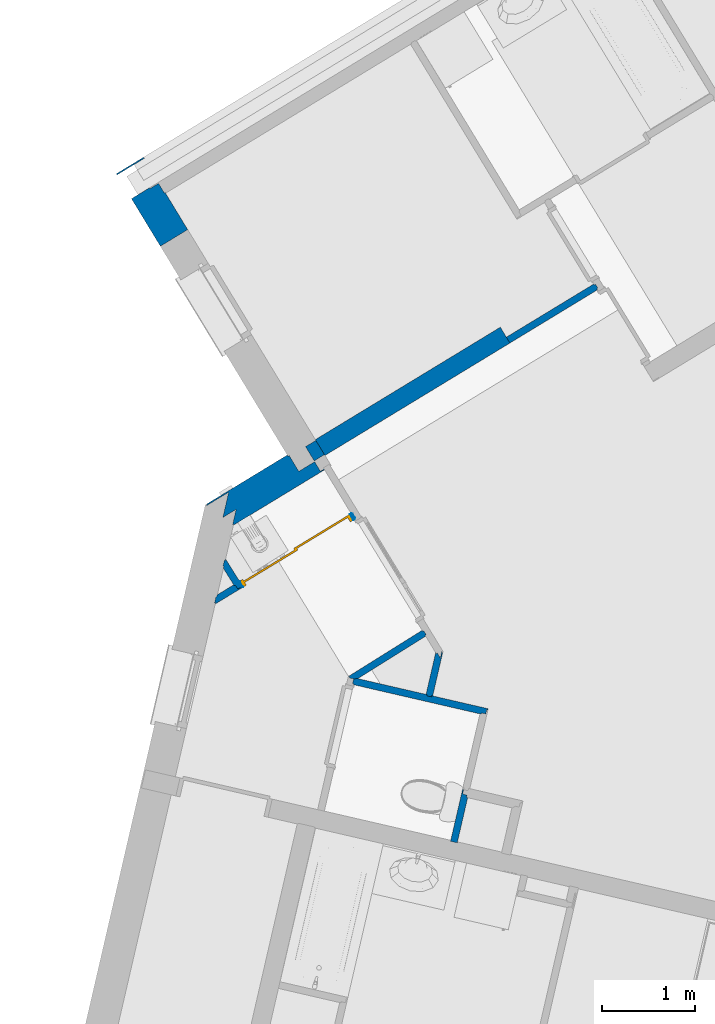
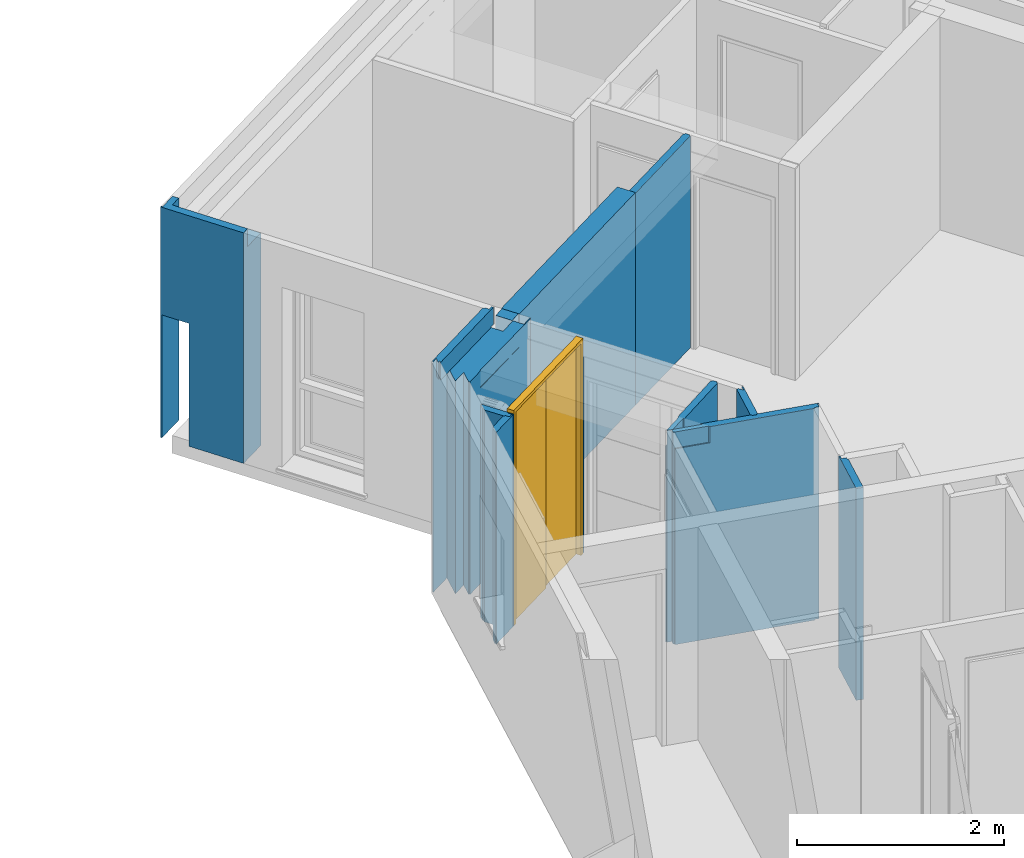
# One storey, part 54 of 90: 12 walls, 1 door, 1 opening.
"""IFC2X3 building model written with IfcOpenShell, lengths in metres."""

from ifc_helpers import new_model, entity, si_unit, converted_unit, derived_unit, money_unit, direction, frame, origin_with_axes, place, context, subcontext, project, spatial, faceted_brep, material, material_list, type_object, element, fill, save


model = new_model("IFC2X3")

# Units and contexts
model_context = context("Model", 3, precision=1e-05, world=origin_with_axes(), true_north=direction((0.0, 1.0)))
body_context = subcontext(model_context, "Body", "Model", "MODEL_VIEW")
ifc_project = project(units=[si_unit("LENGTHUNIT", "METRE"), si_unit("AREAUNIT", "SQUARE_METRE"), si_unit("VOLUMEUNIT", "CUBIC_METRE"), converted_unit("PLANEANGLEUNIT", "DEGREE", entity("IfcPlaneAngleMeasure", 0.0174532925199), si_unit("PLANEANGLEUNIT", "RADIAN"), dimensions=[0, 0, 0, 0, 0, 0, 0]), si_unit("SOLIDANGLEUNIT", "STERADIAN"), money_unit("EUR"), converted_unit("TIMEUNIT", "Year", entity("IfcTimeMeasure", 31556926.0), si_unit("TIMEUNIT", "SECOND"), dimensions=[0, 0, 1, 0, 0, 0, 0]), si_unit("MASSUNIT", "GRAM", prefix="KILO"), si_unit("THERMODYNAMICTEMPERATUREUNIT", "DEGREE_CELSIUS"), si_unit("LUMINOUSINTENSITYUNIT", "LUMEN"), si_unit("ENERGYUNIT", "JOULE", prefix="MEGA"), derived_unit("THERMALCONDUCTANCEUNIT", [(si_unit("POWERUNIT", "WATT"), 1), (si_unit("LENGTHUNIT", "METRE"), -1), (si_unit("THERMODYNAMICTEMPERATUREUNIT", "KELVIN"), -1)]), derived_unit("SPECIFICHEATCAPACITYUNIT", [(si_unit("ENERGYUNIT", "JOULE"), 1), (si_unit("MASSUNIT", "GRAM", prefix="KILO"), -1), (si_unit("THERMODYNAMICTEMPERATUREUNIT", "KELVIN"), -1)]), derived_unit("MASSDENSITYUNIT", [(si_unit("MASSUNIT", "GRAM", prefix="KILO"), 1), (si_unit("VOLUMEUNIT", "CUBIC_METRE"), -1)])], contexts=[model_context])

# Site, building, storey
site_placement = place(None, origin_with_axes())
site = spatial("IfcSite", under=ifc_project, at=site_placement, Name="Site", CompositionType="ELEMENT")
building_placement = place(site_placement, origin_with_axes())
building = spatial("IfcBuilding", under=site, at=building_placement, Name="Bâtiment", CompositionType="ELEMENT")
storey_placement = place(building_placement, frame((0.0, 0.0, 2.72), z_axis=(0.0, 0.0, 1.0), x_axis=(1.0, 0.0, 0.0)))
storey = spatial("IfcBuildingStorey", under=building, at=storey_placement, Name="R+1", CompositionType="ELEMENT", Elevation=2.72)

# Wall
ifc_material_1 = material(Name="Finition int - Plaque de plâtre")
ifc_material_2 = material(Name="Isolation - Polystyrène extrudé")
ifc_material_3 = material(Name="Bloc ELITHERM")
ifc_material_4 = material(Name="Isolation - Polystyrène expansé")
ifc_material_5 = material(Name="Mortier")
ifc_material_6 = material(Name="Béton cellulaire")
ifc_material_7 = material(Name="Finition ext - Crépis")
ifc_material_list_1 = material_list([ifc_material_1, ifc_material_2, ifc_material_3, ifc_material_4, ifc_material_5, ifc_material_6, ifc_material_7])
wall_type_1 = type_object("IfcWallType", Name="Mur ALKERN + planelle 21 345 x 2720", PredefinedType="USERDEFINED")
wall_1_placement = place(storey_placement, frame((-5.96607923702, 18.1788685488, 0.0), z_axis=(0.0, 0.0, 1.0), x_axis=(-0.854539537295, -0.519386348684, 0.0)))
element("IfcWall", 1, at=wall_1_placement, inside=storey, type_object=wall_type_1, material=ifc_material_list_1, Name="Mue bloc ALKERN isolé", ObjectType="SOLIDWALL", context=body_context, shape_type="Brep", body=[
    faceted_brep([(-0.335000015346, 0.344930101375, 2.51), (-0.335000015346, 0.344930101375, 2.31), (-0.335000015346, 0.34499998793, 2.31), (-0.335000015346, 0.34499998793, 0.0), (-0.33500001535, 0.335000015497, 0.0), (-0.33500001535, 0.335000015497, 2.51), (0.677432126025, 0.337858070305, 2.51), (0.677432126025, 0.337858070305, 2.31), (0.677427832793, 0.34499998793, 2.31), (0.677427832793, 0.34499998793, 2.51), (0.889585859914, 0.34499998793, 2.51), (0.889585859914, 0.34499998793, 0.0), (0.879831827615, 0.335000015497, 0.0), (0.879831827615, 0.335000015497, 2.51)], [[[0, 1, 2, 3, 4, 5]], [[1, 0, 6, 7]], [[8, 2, 1, 7]], [[8, 9, 10, 11, 3, 2]], [[3, 11, 12, 4]], [[4, 12, 13, 5]], [[6, 0, 5, 13, 10, 9]], [[6, 9, 8, 7]], [[11, 10, 13, 12]]]),
    faceted_brep([(-0.215000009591, 0.215000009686, 0.0), (0.776752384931, 0.215000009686, 0.0), (0.776752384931, 0.215000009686, 2.51), (-0.215000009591, 0.215000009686, 2.51), (-0.215000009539, 0.335000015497, 0.0), (0.893801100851, 0.335000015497, 0.0), (0.893801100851, 0.335000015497, 2.51), (-0.215000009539, 0.335000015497, 2.51)], [[[0, 1, 2, 3]], [[4, 5, 1, 0]], [[5, 6, 2, 1]], [[3, 2, 6, 7]], [[0, 3, 7, 4]], [[7, 6, 5, 4]]]),
    faceted_brep([(0.749302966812, 0.015, 0.0), (0.749302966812, 0.015, 2.50999999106), (-0.0149999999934, 0.015, 2.50999999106), (-0.0149999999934, 0.015, 0.0), (0.815630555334, 0.0829999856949, 2.50999999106), (0.944384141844, 0.214999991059, 0.0), (0.944384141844, 0.214999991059, 2.50999999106), (-0.0149999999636, 0.0829999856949, 2.50999999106), (-0.0149999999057, 0.214999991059, 2.50999999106), (-0.0149999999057, 0.214999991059, 0.0)], [[[0, 1, 2, 3]], [[4, 1, 0, 5, 6]], [[1, 4, 7, 2]], [[7, 8, 9, 3, 2]], [[5, 0, 3, 9]], [[6, 5, 9, 8]], [[4, 6, 8, 7]]]),
    faceted_brep([(-0.0630000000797, 0.0630000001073, 2.51999999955), (0.980517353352, 0.0630000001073, 2.51999999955), (0.980517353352, 0.0630000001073, 2.72), (-0.0630000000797, 0.0630000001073, 2.72), (-0.0630000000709, 0.083000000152, 2.51999999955), (1.00002547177, 0.083000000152, 2.51999999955), (1.00002547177, 0.083000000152, 2.72), (-0.0630000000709, 0.083000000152, 2.72)], [[[0, 1, 2, 3]], [[4, 5, 1, 0]], [[5, 6, 2, 1]], [[3, 2, 6, 7]], [[0, 3, 7, 4]], [[7, 6, 5, 4]]]),
    faceted_brep([(0.933697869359, 0.015, 2.51), (0.933697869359, 0.015, 2.52), (-0.0149999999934, 0.015, 2.52), (-0.0149999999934, 0.015, 2.51), (1.00002547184, 0.083, 2.52), (1.00002547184, 0.083, 2.51), (-0.0149999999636, 0.083, 2.52), (-0.0149999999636, 0.083, 2.51)], [[[0, 1, 2, 3]], [[4, 1, 0, 5]], [[1, 4, 6, 2]], [[2, 6, 7, 3]], [[5, 0, 3, 7]], [[4, 5, 7, 6]]]),
    faceted_brep([(0.961636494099, 0.015, 2.51999999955), (0.961636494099, 0.015, 2.72), (-0.0149999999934, 0.015, 2.72), (-0.0149999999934, 0.015, 2.51999999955), (1.00845597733, 0.0629999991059, 2.72), (1.00845597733, 0.0629999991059, 2.51999999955), (-0.0149999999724, 0.0629999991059, 2.72), (-0.0149999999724, 0.0629999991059, 2.51999999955)], [[[0, 1, 2, 3]], [[4, 1, 0, 5]], [[1, 4, 6, 2]], [[2, 6, 7, 3]], [[5, 0, 3, 7]], [[4, 5, 7, 6]]]),
    faceted_brep([(1.0140581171, 0.0, 2.72), (0.0, 0.0, 2.72), (0.0, 0.0, 0.0), (1.0140581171, 0.0, 0.0), (1.02868919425, 0.0149999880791, 2.72), (0.0, 0.0149999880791, 2.72), (0.0, 0.0149999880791, 0.0), (1.02868919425, 0.0149999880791, 0.0)], [[[0, 1, 2, 3]], [[1, 0, 4, 5]], [[2, 1, 5, 6]], [[6, 7, 3, 2]], [[7, 4, 0, 3]], [[5, 4, 7, 6]]]),
])

# Wall, opening, door
ifc_material_8 = material(Name="Isolation - Laine de roche")
ifc_material_list_2 = material_list([ifc_material_1, ifc_material_8, ifc_material_1])
wall_type_2 = type_object("IfcWallType", Name="3 - Cloison 72mm Placostil 74", PredefinedType="USERDEFINED")
wall_2_placement = place(storey_placement, frame((-5.17602989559, 17.5240026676, 0.0), z_axis=(0.0, 0.0, 1.0), x_axis=(-0.854539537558, -0.519386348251, 0.0)))
wall_2 = element("IfcWall", 2, at=wall_2_placement, inside=storey, type_object=wall_type_2, material=ifc_material_list_2, Name="Cloison Placostil 72/48", ObjectType="PARTITIONING", context=body_context, shape_type="Brep", body=[
    faceted_brep([(1.48086451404, 0.0, 0.0), (1.48086451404, 0.0, 2.5), (1.48102636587, -0.013, 2.5), (1.48102636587, -0.013, 0.0), (1.48086451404, -0.013, 2.5), (1.48086451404, -0.013, 0.0)], [[[0, 1, 2, 3]], [[4, 1, 0, 5]], [[1, 4, 2]], [[4, 5, 3, 2]], [[5, 0, 3]]]),
    faceted_brep([(0.0890000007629, -0.013, 2.31), (0.0890000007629, 0.0, 2.31), (0.074, 0.0, 2.31), (0.0740000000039, -0.013, 2.31), (0.0890000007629, 0.0, 0.0), (0.0890000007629, -0.013, 0.0), (0.074, 0.0, 0.0), (0.0740000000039, -0.013, 0.0)], [[[0, 1, 2, 3]], [[4, 1, 0, 5]], [[1, 4, 6, 2]], [[2, 6, 7, 3]], [[5, 0, 3, 7]], [[4, 5, 7, 6]]]),
    faceted_brep([(1.48086451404, -0.013, 0.0), (1.48086451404, -0.013, 2.5), (1.49402737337, -0.013, 2.5), (1.49402737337, -0.013, 0.0), (1.48086451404, -0.061, 2.5), (1.48086451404, -0.061, 0.0), (1.49462498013, -0.061, 2.5), (1.49462498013, -0.061, 0.0)], [[[0, 1, 2, 3]], [[4, 1, 0, 5]], [[1, 4, 6, 2]], [[3, 2, 6, 7]], [[5, 0, 3, 7]], [[4, 5, 7, 6]]]),
    faceted_brep([(0.0890000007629, -0.061, 2.5), (0.0890000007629, -0.013, 2.5), (0.0610000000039, -0.013, 2.5), (0.0610000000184, -0.061, 2.5), (0.0890000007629, -0.013, 0.0), (0.0890000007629, -0.061, 0.0), (0.0610000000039, -0.013, 0.0), (0.0610000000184, -0.061, 0.0)], [[[0, 1, 2, 3]], [[4, 1, 0, 5]], [[1, 4, 6, 2]], [[3, 2, 6, 7]], [[5, 0, 3, 7]], [[4, 5, 7, 6]]]),
    faceted_brep([(1.48086451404, -0.061, 0.0), (1.48086451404, -0.061, 2.5), (1.48162397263, -0.061, 2.5), (1.48162397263, -0.061, 0.0), (1.48086451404, -0.074, 2.5), (1.48086451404, -0.074, 0.0), (1.48178582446, -0.074, 2.5), (1.48178582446, -0.074, 0.0)], [[[0, 1, 2, 3]], [[4, 1, 0, 5]], [[1, 4, 6, 2]], [[3, 2, 6, 7]], [[5, 0, 3, 7]], [[4, 5, 7, 6]]]),
    faceted_brep([(0.0890000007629, -0.074, 2.31), (0.0890000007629, -0.061, 2.31), (0.0740000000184, -0.061, 2.31), (0.0740000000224, -0.074, 2.31), (0.0890000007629, -0.061, 0.0), (0.0890000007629, -0.074, 0.0), (0.0740000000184, -0.061, 0.0), (0.0740000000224, -0.074, 0.0)], [[[0, 1, 2, 3]], [[4, 1, 0, 5]], [[1, 4, 6, 2]], [[2, 6, 7, 3]], [[5, 0, 3, 7]], [[4, 5, 7, 6]]]),
])
opening_placement = place(wall_2_placement, frame((0.7849322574, 0.0, 0.0), z_axis=(0.0, 0.0, 1.0), x_axis=(1.0, 0.0, 0.0)))
opening = element("IfcOpeningElement", 3, at=opening_placement, cuts=wall_2, Name="Por-002", context=body_context, shape_type="Brep", body=[
    faceted_brep([(-0.695932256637, 0.074, 0.0), (0.695932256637, 0.074, 0.0), (0.695932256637, -0.074, 0.0), (-0.695932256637, -0.074, 0.0), (-0.695932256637, 0.074, 2.54), (0.695932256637, 0.074, 2.54), (0.695932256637, -0.074, 2.54), (-0.695932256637, -0.074, 2.54)], [[[0, 1, 2, 3]], [[0, 4, 5, 1]], [[1, 5, 6, 2]], [[3, 2, 6, 7]], [[4, 0, 3, 7]], [[5, 4, 7, 6]]]),
])
door_style = type_object("IfcDoorStyle", Name="Porte int générique 2019", ConstructionType="NOTDEFINED", OperationType="USERDEFINED", ParameterTakesPrecedence=False, Sizeable=False)
door_placement = place(opening_placement, frame((0.655932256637, 0.0, 0.0), z_axis=(0.0, 0.0, 1.0), x_axis=(-1.0, 0.0, 0.0)))
door = element("IfcDoor", 4, at=door_placement, inside=storey, type_object=door_style, Name="Por-002", ObjectType="DOOR", OverallHeight=2.5, OverallWidth=1.31186, context=body_context, shape_type="Brep", body=[
    faceted_brep([(1.35186451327, 0.074, 0.0), (1.31186451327, 0.074, 0.0), (1.31186451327, 0.074, 2.5), (0.0, 0.074, 2.5), (0.0, 0.074, 0.0), (-0.04, 0.074, 0.0), (-0.04, 0.074, 2.54), (1.35186451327, 0.074, 2.54), (1.35186451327, 0.0, 0.0), (1.31186451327, 0.0, 0.0), (1.31186451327, 0.0, 2.5), (0.0, 0.0, 2.5), (0.0, 0.0, 0.0), (-0.04, 0.0, 0.0), (-0.04, 0.0, 2.54), (1.35186451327, 0.0, 2.54)], [[[0, 1, 2, 3, 4, 5, 6, 7]], [[0, 8, 9, 1]], [[1, 9, 10, 2]], [[2, 10, 11, 3]], [[3, 11, 12, 4]], [[5, 4, 12, 13]], [[14, 6, 5, 13]], [[15, 7, 6, 14]], [[8, 0, 7, 15]], [[9, 8, 15, 14, 13, 12, 11, 10]]]),
    faceted_brep([(1.31186451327, 0.074, 0.0), (1.31186451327, 0.054, 0.0), (0.640932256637, 0.054, 0.0), (0.640932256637, 0.074, 0.0), (1.31186451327, 0.074, 2.5), (1.31186451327, 0.054, 2.5), (0.640932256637, 0.054, 2.5), (0.640932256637, 0.074, 2.5)], [[[0, 1, 2, 3]], [[4, 5, 1, 0]], [[1, 5, 6, 2]], [[3, 2, 6, 7]], [[0, 3, 7, 4]], [[7, 6, 5, 4]]]),
    faceted_brep([(0.670932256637, 0.054, 0.0), (0.670932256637, 0.034, 0.0), (0.0, 0.034, 0.0), (0.0, 0.054, 0.0), (0.670932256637, 0.054, 2.5), (0.670932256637, 0.034, 2.5), (0.0, 0.034, 2.5), (0.0, 0.054, 2.5)], [[[0, 1, 2, 3]], [[4, 5, 1, 0]], [[1, 5, 6, 2]], [[3, 2, 6, 7]], [[0, 3, 7, 4]], [[7, 6, 5, 4]]]),
])
fill(opening, door)

# Walls
wall_3_placement = place(storey_placement, frame((-5.30738546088, 15.7908144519, 0.0), z_axis=(0.0, 0.0, 1.0), x_axis=(0.974387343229, -0.224876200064, 0.0)))
element("IfcWall", 5, at=wall_3_placement, inside=storey, type_object=wall_type_2, material=ifc_material_list_2, Name="Cloison Placostil 72/48", ObjectType="PARTITIONING", context=body_context, shape_type="Brep", body=[
    faceted_brep([(0.012999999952, 0.0, 2.31), (0.0183847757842, 0.0, 2.31), (0.0183847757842, 0.0, 0.0), (0.012999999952, 0.0, 0.0), (0.0129999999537, -0.00538477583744, 2.31), (0.0129999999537, -0.00538477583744, 0.0)], [[[0, 1, 2, 3]], [[4, 1, 0]], [[1, 4, 5, 2]], [[3, 2, 5]], [[4, 0, 3, 5]]]),
    faceted_brep([(0.354379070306, 0.0, 2.5), (0.367455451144, -0.013, 2.5), (0.872738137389, -0.013, 2.5), (0.872738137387, 0.0, 2.5), (0.367455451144, -0.013, 2.31), (0.354379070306, 0.0, 2.31), (0.0732670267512, -0.013, 2.31), (0.0732670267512, -0.013, 0.0), (0.872738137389, -0.013, 0.0), (0.872738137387, 0.0, 0.0), (0.0862670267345, 0.0, 0.0), (0.0862670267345, 0.0, 2.31)], [[[0, 1, 2, 3]], [[4, 1, 0, 5]], [[4, 6, 7, 8, 2, 1]], [[9, 3, 2, 8]], [[5, 0, 3, 9, 10, 11]], [[6, 4, 5, 11]], [[6, 11, 10, 7]], [[8, 7, 10, 9]]]),
    faceted_brep([(1.54800000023, -0.013, 2.5), (1.54800000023, 0.0, 2.5), (0.920738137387, 0.0, 2.5), (0.920738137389, -0.013, 2.5), (1.54800000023, -0.013, 0.0), (1.54800000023, 0.0, 0.0), (0.920738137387, 0.0, 0.0), (0.920738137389, -0.013, 0.0)], [[[0, 1, 2, 3]], [[1, 0, 4, 5]], [[1, 5, 6, 2]], [[7, 3, 2, 6]], [[4, 0, 3, 7]], [[5, 4, 7, 6]]]),
    faceted_brep([(0.0609999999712, -0.061, 2.5), (1.53500000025, -0.061, 2.5), (1.53500000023, -0.013, 2.5), (0.0609999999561, -0.013, 2.5), (0.0609999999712, -0.061, 0.0), (1.53500000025, -0.061, 0.0), (1.53500000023, -0.013, 0.0), (0.0609999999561, -0.013, 0.0)], [[[0, 1, 2, 3]], [[4, 5, 1, 0]], [[6, 2, 1, 5]], [[3, 2, 6, 7]], [[7, 4, 0, 3]], [[7, 6, 5, 4]]]),
    faceted_brep([(0.415737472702, -0.061, 2.5), (0.428813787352, -0.0739999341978, 2.5), (1.48700000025, -0.074, 2.5), (1.48700000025, -0.061, 2.5), (0.428813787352, -0.0739999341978, 2.31), (0.415737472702, -0.061, 2.31), (0.0740000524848, -0.0739999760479, 2.31), (0.0739999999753, -0.074, 0.0), (1.48700000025, -0.074, 0.0), (1.48700000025, -0.061, 0.0), (0.0739999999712, -0.061, 0.0), (0.0739999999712, -0.061, 2.31)], [[[0, 1, 2, 3]], [[4, 1, 0, 5]], [[4, 6, 7, 8, 2, 1]], [[3, 2, 8, 9]], [[5, 0, 3, 9, 10, 11]], [[6, 4, 5, 11]], [[6, 11, 10, 7]], [[9, 8, 7, 10]]]),
])
wall_4_placement = place(storey_placement, frame((-4.44875993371, 16.3274349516, 0.0), z_axis=(0.0, 0.0, 1.0), x_axis=(-0.848007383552, -0.529984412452, 0.0)))
element("IfcWall", 6, at=wall_4_placement, inside=storey, type_object=wall_type_2, material=ifc_material_list_2, Name="Cloison Placostil 72/48", ObjectType="PARTITIONING", context=body_context, shape_type="Brep", body=[
    faceted_brep([(0.762492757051, 0.061, 2.5), (0.762454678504, 0.074, 2.5), (0.0749270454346, 0.074, 2.5), (0.0747651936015, 0.061, 2.5), (0.762454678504, 0.074, 2.31), (0.762492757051, 0.061, 2.31), (0.938521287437, 0.074, 2.31), (0.938521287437, 0.074, 0.0), (0.0749270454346, 0.074, 0.0), (0.0747651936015, 0.061, 0.0), (0.95152128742, 0.061, 0.0), (0.95152128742, 0.061, 2.31)], [[[0, 1, 2, 3]], [[4, 1, 0, 5]], [[4, 6, 7, 8, 2, 1]], [[8, 9, 3, 2]], [[5, 0, 3, 9, 10, 11]], [[6, 4, 5, 11]], [[6, 11, 10, 7]], [[8, 7, 10, 9]]]),
    faceted_brep([(1.00713651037, 0.013, 2.5), (1.01252128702, 0.0183847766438, 2.5), (0.978580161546, 0.0523259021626, 2.5), (0.96990606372, 0.061, 2.5), (0.0617641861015, 0.061, 2.5), (0.0611665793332, 0.013, 2.5), (1.01252128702, 0.0183847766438, 0.0), (1.00713651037, 0.013, 0.0), (0.978580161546, 0.0523259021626, 0.0), (0.96990606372, 0.061, 0.0), (0.0617641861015, 0.061, 0.0), (0.0611665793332, 0.013, 0.0)], [[[0, 1, 2, 3, 4, 5]], [[6, 1, 0, 7]], [[8, 2, 1, 6]], [[8, 9, 3, 2]], [[4, 3, 9, 10]], [[10, 11, 5, 4]], [[11, 7, 0, 5]], [[8, 6, 7, 11, 10, 9]]]),
    faceted_brep([(0.0740057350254, 2.02924610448e-09, 2.31), (0.0740101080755, 0.000351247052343, 2.31), (0.0740101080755, 0.00035124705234, 2.5), (0.0741675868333, 0.013, 2.5), (0.0741675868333, 0.013, 0.0), (0.0740057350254, 2.02924610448e-09, 0.0), (1.01128122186, 3.30096838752e-10, 2.31), (1.01129574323, 0.00122554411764, 2.31), (1.00332889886, 0.00919238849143, 2.31), (0.999521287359, 0.013, 2.31), (0.762633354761, 0.013, 2.31), (0.762662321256, 0.00311085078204, 2.31), (0.762662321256, 0.00311085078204, 2.5), (0.762633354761, 0.013, 2.5), (0.999521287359, 0.013, 0.0), (1.00332889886, 0.00919238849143, 0.0), (1.01252128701, 3.30096838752e-10, 0.0), (1.01252128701, 3.30096838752e-10, 2.5), (1.01128122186, 3.32342153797e-10, 2.5), (1.01129574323, 0.00122554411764, 2.5)], [[[0, 1, 2, 3, 4, 5]], [[1, 0, 6, 7, 8, 9, 10, 11]], [[12, 2, 1, 11]], [[12, 13, 3, 2]], [[10, 9, 14, 4, 3, 13]], [[14, 15, 16, 5, 4]], [[6, 0, 5, 16, 17, 18]], [[18, 19, 7, 6]], [[7, 19, 17, 16, 15, 8]], [[9, 8, 15, 14]], [[10, 13, 12, 11]], [[19, 18, 17]]]),
])
wall_5_placement = place(storey_placement, frame((-4.28676810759, 16.0609119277, 0.0), z_axis=(0.0, 0.0, 1.0), x_axis=(-0.224876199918, -0.974387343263, 0.0)))
element("IfcWall", 7, at=wall_5_placement, inside=storey, type_object=wall_type_2, material=ifc_material_list_2, Name="Cloison Placostil 72/48", ObjectType="PARTITIONING", context=body_context, shape_type="Brep", body=[
    faceted_brep([(0.492692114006, -0.013, 2.5), (0.492692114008, 0.0, 2.5), (0.0186179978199, 0.0, 2.5), (0.00529021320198, -0.013, 2.5), (0.492692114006, -0.013, 0.0), (0.492692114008, 0.0, 0.0), (0.0186179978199, 0.0, 0.0), (0.00529021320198, -0.013, 0.0)], [[[0, 1, 2, 3]], [[1, 0, 4, 5]], [[1, 5, 6, 2]], [[7, 3, 2, 6]], [[4, 0, 3, 7]], [[5, 4, 7, 6]]]),
    faceted_brep([(0.505692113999, -0.061, 2.5), (0.505692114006, -0.013, 2.5), (0.0740335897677, -0.013, 2.5), (0.0248233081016, -0.061, 2.5), (0.505692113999, -0.061, 0.0), (0.505692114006, -0.013, 0.0), (0.0740335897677, -0.013, 0.0), (0.0248233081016, -0.061, 0.0)], [[[0, 1, 2, 3]], [[1, 0, 4, 5]], [[1, 5, 6, 2]], [[7, 3, 2, 6]], [[4, 0, 3, 7]], [[5, 4, 7, 6]]]),
    faceted_brep([(0.492692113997, -0.074, 2.5), (0.492692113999, -0.061, 2.5), (0.0434413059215, -0.061, 2.5), (0.0301135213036, -0.074, 2.5), (0.492692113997, -0.074, 0.0), (0.492692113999, -0.061, 0.0), (0.0434413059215, -0.061, 0.0), (0.0301135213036, -0.074, 0.0)], [[[0, 1, 2, 3]], [[1, 0, 4, 5]], [[1, 5, 6, 2]], [[7, 3, 2, 6]], [[4, 0, 3, 7]], [[5, 4, 7, 6]]]),
])
wall_6_placement = place(storey_placement, frame((-3.56494758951, 19.3871585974, 0.0), z_axis=(0.0, 0.0, 1.0), x_axis=(0.854539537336, 0.519386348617, 0.0)))
element("IfcWall", 8, at=wall_6_placement, inside=storey, type_object=wall_type_2, material=ifc_material_list_2, Name="Cloison Placostil 72/48", ObjectType="PARTITIONING", context=body_context, shape_type="Brep", body=[
    faceted_brep([(1.1053873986, 0.074, 0.0), (1.1053873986, 0.061, 0.0), (0.0, 0.061, 0.0), (0.0, 0.074, 0.0), (1.1053873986, 0.074, 2.5), (1.1053873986, 0.061, 2.5), (0.0, 0.061, 2.5), (0.0, 0.074, 2.5)], [[[0, 1, 2, 3]], [[1, 0, 4, 5]], [[1, 5, 6, 2]], [[7, 3, 2, 6]], [[4, 0, 3, 7]], [[5, 4, 7, 6]]]),
    faceted_brep([(1.1183873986, 0.061, 0.0), (1.11838739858, 0.013, 0.0), (0.0, 0.013, 0.0), (0.0, 0.061, 0.0), (1.1183873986, 0.061, 2.5), (1.11838739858, 0.013, 2.5), (0.0, 0.013, 2.5), (0.0, 0.061, 2.5)], [[[0, 1, 2, 3]], [[1, 0, 4, 5]], [[1, 5, 6, 2]], [[7, 3, 2, 6]], [[4, 0, 3, 7]], [[5, 4, 7, 6]]]),
    faceted_brep([(1.10538739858, 0.013, 0.0), (1.10538739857, 0.0, 0.0), (0.0, 0.0, 0.0), (0.0, 0.013, 0.0), (1.10538739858, 0.013, 2.5), (1.10538739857, 0.0, 2.5), (0.0, 0.0, 2.5), (0.0, 0.013, 2.5)], [[[0, 1, 2, 3]], [[1, 0, 4, 5]], [[1, 5, 6, 2]], [[7, 3, 2, 6]], [[4, 0, 3, 7]], [[5, 4, 7, 6]]]),
])
ifc_material_9 = material(Name="Finition int - Enduit plâtre")
ifc_material_10 = material(Name="Béton")
ifc_material_list_3 = material_list([ifc_material_9, ifc_material_10, ifc_material_9])
wall_type_3 = type_object("IfcWallType", Name="2 - Murs Béton 18 + Enduit 2 Faces 200", PredefinedType="USERDEFINED")
wall_7_placement = place(storey_placement, frame((-5.65827844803, 18.336693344, 0.0), z_axis=(0.0, 0.0, 1.0), x_axis=(0.854539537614, 0.51938634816, 0.0)))
element("IfcWall", 9, at=wall_7_placement, inside=storey, type_object=wall_type_3, material=ifc_material_list_3, Name="M_Ext-008", ObjectType="SOLIDWALL", context=body_context, shape_type="Brep", body=[
    faceted_brep([(2.33443129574, 0.01, 2.51), (2.33443129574, 0.0, 2.51), (2.33443129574, 0.0, 0.0), (2.33443129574, 0.01, 0.0), (0.0, 0.0, 2.51), (0.0, 0.01, 2.51), (0.0, 0.0, 0.0), (0.0, 0.01, 0.0)], [[[0, 1, 2, 3]], [[4, 1, 0, 5]], [[1, 4, 6, 2]], [[7, 3, 2, 6]], [[5, 0, 3, 7]], [[4, 5, 7, 6]]]),
    faceted_brep([(2.33443129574, 0.0, 2.51), (2.33443129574, -0.18, 2.51), (2.33443129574, -0.18, 0.0), (2.33443129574, 0.0, 0.0), (0.0, -0.18, 2.51), (0.0, 0.0, 2.51), (0.0, -0.18, 0.0), (0.0, 0.0, 0.0)], [[[0, 1, 2, 3]], [[4, 1, 0, 5]], [[1, 4, 6, 2]], [[7, 3, 2, 6]], [[5, 0, 3, 7]], [[4, 5, 7, 6]]]),
    faceted_brep([(2.33443129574, -0.18, 2.51), (2.33443129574, -0.19, 2.51), (2.33443129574, -0.19, 0.0), (2.33443129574, -0.18, 0.0), (0.0, -0.19, 2.51), (0.0, -0.18, 2.51), (0.0, -0.19, 0.0), (0.0, -0.18, 0.0)], [[[0, 1, 2, 3]], [[4, 1, 0, 5]], [[1, 4, 6, 2]], [[7, 3, 2, 6]], [[5, 0, 3, 7]], [[4, 5, 7, 6]]]),
])
wall_type_4 = type_object("IfcWallType", Name="3 - Cloison Gaine Technique 72mm 74", PredefinedType="USERDEFINED")
wall_8_placement = place(storey_placement, frame((-6.4414871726, 16.7548618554, 0.0), z_axis=(0.0, 0.0, 1.0), x_axis=(-0.854539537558, -0.519386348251, 0.0)))
element("IfcWall", 10, at=wall_8_placement, inside=storey, type_object=wall_type_4, material=ifc_material_list_2, Name="Cloison Placostil 72/48", ObjectType="PARTITIONING", context=body_context, shape_type="Brep", body=[
    faceted_brep([(0.0131628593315, -0.013, 0.0), (0.340620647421, -0.013, 0.0), (0.340620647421, -0.013, 2.5), (0.0131628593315, -0.013, 2.5), (0.0130010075, 0.0, 0.0), (0.353300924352, 0.0, 0.0), (0.353300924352, 0.0, 2.5), (0.0130010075, 0.0, 2.5)], [[[0, 1, 2, 3]], [[4, 5, 1, 0]], [[5, 6, 2, 1]], [[3, 2, 6, 7]], [[4, 0, 3, 7]], [[7, 6, 5, 4]]]),
    faceted_brep([(0.061764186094, -0.061, 0.0), (0.307770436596, -0.061, 0.0), (0.307770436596, -0.061, 2.5), (0.061764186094, -0.061, 2.5), (0.0611665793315, -0.013, 0.0), (0.35458992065, -0.013, 0.0), (0.35458992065, -0.013, 2.5), (0.0611665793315, -0.013, 2.5)], [[[0, 1, 2, 3]], [[4, 5, 1, 0]], [[5, 6, 2, 1]], [[3, 2, 6, 7]], [[4, 0, 3, 7]], [[7, 6, 5, 4]]]),
    faceted_brep([(0.0749270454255, -0.074, 0.0), (0.281120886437, -0.074, 0.0), (0.281120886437, -0.074, 2.5), (0.0749270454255, -0.074, 2.5), (0.074765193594, -0.061, 0.0), (0.293801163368, -0.061, 0.0), (0.293801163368, -0.061, 2.5), (0.074765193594, -0.061, 2.5)], [[[0, 1, 2, 3]], [[4, 5, 1, 0]], [[5, 6, 2, 1]], [[3, 2, 6, 7]], [[4, 0, 3, 7]], [[7, 6, 5, 4]]]),
])
wall_9_placement = place(storey_placement, frame((-6.4414871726, 16.7548618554, 0.0), z_axis=(0.0, 0.0, 1.0), x_axis=(-0.529984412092, 0.848007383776, 0.0)))
element("IfcWall", 11, at=wall_9_placement, inside=storey, type_object=wall_type_4, material=ifc_material_list_2, Name="Cloison Placostil 72/48", ObjectType="PARTITIONING", context=body_context, shape_type="Brep", body=[
    faceted_brep([(0.061764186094, 0.061, 0.0), (0.296671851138, 0.061, 0.0), (0.296671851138, 0.061, 2.5), (0.061764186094, 0.061, 2.5), (0.0619260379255, 0.074, 0.0), (0.283671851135, 0.074, 0.0), (0.283671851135, 0.074, 2.5), (0.0619260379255, 0.074, 2.5)], [[[0, 1, 2, 3]], [[4, 5, 1, 0]], [[5, 6, 2, 1]], [[3, 2, 6, 7]], [[4, 0, 3, 7]], [[7, 6, 5, 4]]]),
    faceted_brep([(0.0131628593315, 0.013, 0.0), (0.35881394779, 0.013, 0.0), (0.35881394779, 0.013, 2.5), (0.0131628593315, 0.013, 2.5), (0.0137604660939, 0.061, 0.0), (0.310813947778, 0.061, 0.0), (0.310813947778, 0.061, 2.5), (0.0137604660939, 0.061, 2.5)], [[[0, 1, 2, 3]], [[4, 5, 1, 0]], [[5, 6, 2, 1]], [[3, 2, 6, 7]], [[4, 0, 3, 7]], [[7, 6, 5, 4]]]),
    faceted_brep([(0.0610047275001, 0.0, 0.0), (0.357671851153, 0.0, 0.0), (0.357671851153, 0.0, 2.5), (0.0610047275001, 0.0, 2.5), (0.0611665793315, 0.013, 0.0), (0.34467185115, 0.013, 0.0), (0.34467185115, 0.013, 2.5), (0.0611665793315, 0.013, 2.5)], [[[0, 1, 2, 3]], [[4, 5, 1, 0]], [[5, 6, 2, 1]], [[3, 2, 6, 7]], [[4, 0, 3, 7]], [[7, 6, 5, 4]]]),
    faceted_brep([(0.0, 0.0, 0.0), (0.0130010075, 0.0, 0.0), (0.0130010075, 0.0, 2.5), (0.0, 0.0, 2.5), (0.0001618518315, 0.013, 0.0), (0.0131628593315, 0.013, 0.0), (0.0131628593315, 0.013, 2.5), (0.0001618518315, 0.013, 2.5)], [[[0, 1, 2, 3]], [[4, 5, 1, 0]], [[5, 6, 2, 1]], [[3, 2, 6, 7]], [[4, 0, 3, 7]], [[7, 6, 5, 4]]]),
])
wall_10_placement = place(storey_placement, frame((-3.99793094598, 14.5808860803, 0.0), z_axis=(0.0, 0.0, 1.0), x_axis=(-0.224876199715, -0.97438734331, 0.0)))
element("IfcWall", 12, at=wall_10_placement, inside=storey, type_object=wall_type_4, material=ifc_material_list_2, Name="Cloison Placostil 72/48", ObjectType="PARTITIONING", context=body_context, shape_type="Brep", body=[
    faceted_brep([(0.0999999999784, -0.013, 2.5), (0.599999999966, -0.013, 2.5), (0.599999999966, 0.0, 2.5), (0.1, 0.0, 2.5), (0.0999999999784, -0.013, 0.0), (0.599999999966, -0.013, 0.0), (0.599999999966, 0.0, 0.0), (0.1, 0.0, 0.0)], [[[0, 1, 2, 3]], [[4, 5, 1, 0]], [[2, 1, 5, 6]], [[3, 2, 6, 7]], [[4, 0, 3, 7]], [[7, 6, 5, 4]]]),
    faceted_brep([(0.0739999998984, -0.061, 2.5), (0.599999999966, -0.061, 2.5), (0.599999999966, -0.013, 2.5), (0.0739999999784, -0.013, 2.5), (0.0739999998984, -0.061, 0.0), (0.599999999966, -0.061, 0.0), (0.599999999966, -0.013, 0.0), (0.0739999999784, -0.013, 0.0)], [[[0, 1, 2, 3]], [[4, 5, 1, 0]], [[2, 1, 5, 6]], [[3, 2, 6, 7]], [[4, 0, 3, 7]], [[7, 6, 5, 4]]]),
    faceted_brep([(0.0259999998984, -0.061, 2.5), (0.0259999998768, -0.074, 2.5), (0.599999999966, -0.074, 2.5), (0.599999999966, -0.061, 2.5), (0.0259999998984, -0.061, 0.0), (0.0259999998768, -0.074, 0.0), (0.599999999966, -0.074, 0.0), (0.599999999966, -0.061, 0.0)], [[[0, 1, 2, 3]], [[4, 5, 1, 0]], [[1, 5, 6, 2]], [[7, 3, 2, 6]], [[4, 0, 3, 7]], [[5, 4, 7, 6]]]),
])
wall_type_5 = type_object("IfcWallType", Name="Béton 180", PredefinedType="USERDEFINED")
wall_11_placement = place(storey_placement, frame((-5.76936857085, 18.2691731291, 0.0), z_axis=(0.0, 0.0, 1.0), x_axis=(0.854539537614, 0.51938634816, 0.0)))
element("IfcWall", 13, at=wall_11_placement, inside=storey, type_object=wall_type_5, material=ifc_material_10, Name="M_Ext-008", ObjectType="SOLIDWALL", context=body_context, shape_type="Brep", body=[
    faceted_brep([(0.129999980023, 0.0, 0.0), (0.129999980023, 0.0, 2.51), (0.129999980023, -0.18, 2.51), (0.129999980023, -0.18, 0.0), (0.0, 0.0, 0.0), (0.0, 0.0, 2.51), (0.0, -0.18, 2.51), (0.0, -0.18, 0.0)], [[[0, 1, 2, 3]], [[4, 5, 1, 0]], [[5, 6, 2, 1]], [[3, 2, 6, 7]], [[7, 4, 0, 3]], [[7, 6, 5, 4]]]),
])
ifc_material_11 = material(Name="Etanchéité résine")
ifc_material_list_4 = material_list([ifc_material_1, ifc_material_2, ifc_material_11, ifc_material_10, ifc_material_7])
wall_type_6 = type_object("IfcWallType", Name="1 - Mur Extérieur BETON étanché+Isolant 120 + ravalement 345", PredefinedType="USERDEFINED")
wall_12_placement = place(storey_placement, frame((-7.79708268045, 21.2202747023, 0.0), z_axis=(0.0, 0.0, 1.0), x_axis=(0.519386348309, -0.854539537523, 0.0)))
element("IfcWall", 14, at=wall_12_placement, inside=storey, type_object=wall_type_6, material=ifc_material_list_4, Name="M_Ext-007", ObjectType="SOLIDWALL", context=body_context, shape_type="Brep", body=[
    faceted_brep([(0.214999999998, 0.329999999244, 2.51), (0.314999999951, 0.329999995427, 2.51), (0.314999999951, 0.329999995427, 1.44999999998), (0.214999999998, 0.329999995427, 1.44999999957), (0.314999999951, 0.32, 2.51), (0.214999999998, 0.32, 2.51), (0.314999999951, 0.32, 1.44999999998), (0.214999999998, 0.32, 1.44999999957)], [[[0, 1, 2, 3]], [[4, 1, 0, 5]], [[1, 4, 6, 2]], [[6, 7, 3, 2]], [[5, 0, 3, 7]], [[4, 5, 7, 6]]]),
    faceted_brep([(0.0, 0.329999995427, 0.0), (0.0, 0.329999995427, 1.44999999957), (0.014999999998, 0.329999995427, 1.44999999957), (0.0149999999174, 0.329999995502, 0.0), (0.0, 0.32, 0.0), (0.0, 0.32, 1.44999999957), (0.0149999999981, 0.32, 1.44999999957), (0.0149999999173, 0.32, 0.0)], [[[0, 1, 2, 3]], [[4, 5, 1, 0]], [[6, 2, 1, 5]], [[7, 3, 2, 6]], [[0, 3, 7, 4]], [[7, 6, 5, 4]]]),
    faceted_brep([(0.445000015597, 0.329999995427, 2.51), (0.914999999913, 0.33, 2.51), (0.914999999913, 0.33, 0.0), (0.445000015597, 0.329999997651, 0.0), (0.914999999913, 0.32, 2.51), (0.445000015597, 0.32, 2.51), (0.914999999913, 0.32, 0.0), (0.445000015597, 0.32, 0.0)], [[[0, 1, 2, 3]], [[4, 1, 0, 5]], [[1, 4, 6, 2]], [[6, 7, 3, 2]], [[5, 0, 3, 7]], [[4, 5, 7, 6]]]),
    faceted_brep([(0.214999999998, 0.32, 2.51), (0.314999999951, 0.32, 2.51), (0.314999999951, 0.32, 1.44999999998), (0.214999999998, 0.32, 1.44999999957), (0.314999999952, 0.21, 2.51), (0.214999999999, 0.21, 2.51), (0.314999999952, 0.21, 1.44999999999), (0.214999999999, 0.21, 1.44999999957)], [[[0, 1, 2, 3]], [[4, 1, 0, 5]], [[1, 4, 6, 2]], [[6, 7, 3, 2]], [[5, 0, 3, 7]], [[4, 5, 7, 6]]]),
    faceted_brep([(0.0, 0.32, 0.0), (0.0, 0.32, 1.44999999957), (0.0149999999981, 0.32, 1.44999999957), (0.0149999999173, 0.32, 0.0), (0.0, 0.21, 0.0), (0.0, 0.21, 1.44999999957), (0.0149999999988, 0.21, 1.44999999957), (0.0149999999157, 0.21, 0.0)], [[[0, 1, 2, 3]], [[4, 5, 1, 0]], [[6, 2, 1, 5]], [[7, 3, 2, 6]], [[0, 3, 7, 4]], [[7, 6, 5, 4]]]),
    faceted_brep([(0.324999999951, 0.32, 2.51), (0.914999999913, 0.32, 2.51), (0.914999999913, 0.32, 0.0), (0.324999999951, 0.32, 0.0), (0.914999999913, 0.21, 2.51), (0.324999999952, 0.21, 2.51), (0.914999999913, 0.21, 0.0), (0.324999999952, 0.21, 0.0)], [[[0, 1, 2, 3]], [[4, 1, 0, 5]], [[1, 4, 6, 2]], [[6, 7, 3, 2]], [[5, 0, 3, 7]], [[4, 5, 7, 6]]]),
    faceted_brep([(0.214999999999, 0.21, 2.51), (0.914999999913, 0.21, 2.51), (0.914999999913, 0.21, 0.0), (0.314999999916, 0.21, 0.0), (0.314999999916, 0.21, 1.44999999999), (0.214999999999, 0.21, 1.44999999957), (0.914999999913, 0.2, 2.51), (0.214999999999, 0.2, 2.51), (0.914999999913, 0.2, 0.0), (0.314999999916, 0.2, 0.0), (0.314999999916, 0.2, 1.44999999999), (0.214999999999, 0.2, 1.44999999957)], [[[0, 1, 2, 3, 4, 5]], [[6, 1, 0, 7]], [[1, 6, 8, 2]], [[8, 9, 3, 2]], [[10, 4, 3, 9]], [[10, 11, 5, 4]], [[7, 0, 5, 11]], [[6, 7, 11, 10, 9, 8]]]),
    faceted_brep([(0.0, 0.21, 0.0), (0.0, 0.21, 1.44999999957), (0.0149999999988, 0.21, 1.44999999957), (0.0149999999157, 0.21, 0.0), (0.0, 0.2, 0.0), (0.0, 0.2, 1.44999999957), (0.0149999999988, 0.2, 1.44999999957), (0.0149999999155, 0.2, 0.0)], [[[0, 1, 2, 3]], [[4, 5, 1, 0]], [[6, 2, 1, 5]], [[7, 3, 2, 6]], [[0, 3, 7, 4]], [[7, 6, 5, 4]]]),
    faceted_brep([(0.0829999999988, 0.2, 2.72), (0.0829999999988, 0.2, 2.51), (0.914999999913, 0.2, 2.51), (0.914999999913, 0.2, 0.0), (0.314999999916, 0.2, 0.0), (0.314999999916, 0.2, 1.44999999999), (0.0149999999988, 0.2, 1.44999999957), (0.0149999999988, 0.2, 2.72), (0.0829999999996, 0.0680000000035, 2.72), (0.0829999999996, 0.0680000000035, 2.51), (0.914999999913, 0.0679999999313, 2.51), (0.914999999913, 0.0679999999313, 2.72), (0.914999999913, 0.0, 2.72), (0.914999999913, 0.0, 0.0), (0.314999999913, 0.0, 0.0), (0.314999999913, 0.0, 1.45), (0.015, 0.0, 1.44999999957), (0.015, 0.0, 2.72)], [[[0, 1, 2, 3, 4, 5, 6, 7]], [[1, 0, 8, 9]], [[10, 2, 1, 9]], [[10, 11, 12, 13, 3, 2]], [[13, 14, 4, 3]], [[15, 5, 4, 14]], [[16, 6, 5, 15]], [[16, 17, 7, 6]], [[8, 0, 7, 17, 12, 11]], [[8, 11, 10, 9]], [[12, 17, 16, 15, 14, 13]]]),
    faceted_brep([(0.0, 0.2, 0.0), (0.0, 0.2, 1.44999999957), (0.0149999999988, 0.2, 1.44999999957), (0.0149999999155, 0.2, 0.0), (0.0, 0.0, 0.0), (0.0, 0.0, 1.44999999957), (0.015, 0.0, 1.44999999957), (0.0149999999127, 0.0, 0.0)], [[[0, 1, 2, 3]], [[4, 5, 1, 0]], [[6, 2, 1, 5]], [[7, 3, 2, 6]], [[0, 3, 7, 4]], [[7, 6, 5, 4]]]),
    faceted_brep([(0.314999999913, 0.0, 1.45), (0.0149999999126, 0.0, 1.45), (0.0149999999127, 0.0, 0.0), (0.0, 0.0, 0.0), (-7.9706445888e-09, 0.0, 1.44999999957), (-7.97064103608e-09, 0.0, 2.72), (0.914999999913, 0.0, 2.72), (0.914999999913, 0.0, 0.0), (0.314999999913, 0.0, 0.0), (0.0149999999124, -0.0149999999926, 1.45), (0.314999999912, -0.014999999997, 1.45), (0.0149999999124, -0.0149999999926, 0.0), (0.0, -0.015, 0.0), (-7.97055577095e-09, -0.015, 1.44999999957), (-7.97055577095e-09, -0.015, 2.72), (0.914999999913, -0.015, 2.72), (0.914999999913, -0.015, 0.0), (0.314999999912, -0.014999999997, 0.0)], [[[0, 1, 2, 3, 4, 5, 6, 7, 8]], [[9, 1, 0, 10]], [[11, 2, 1, 9]], [[3, 2, 11, 12]], [[3, 12, 13, 4]], [[4, 13, 14, 5]], [[15, 6, 5, 14]], [[6, 15, 16, 7]], [[16, 17, 8, 7]], [[10, 0, 8, 17]], [[9, 10, 17, 16, 15, 14, 13, 12, 11]]]),
])

save(model, "model.ifc")
